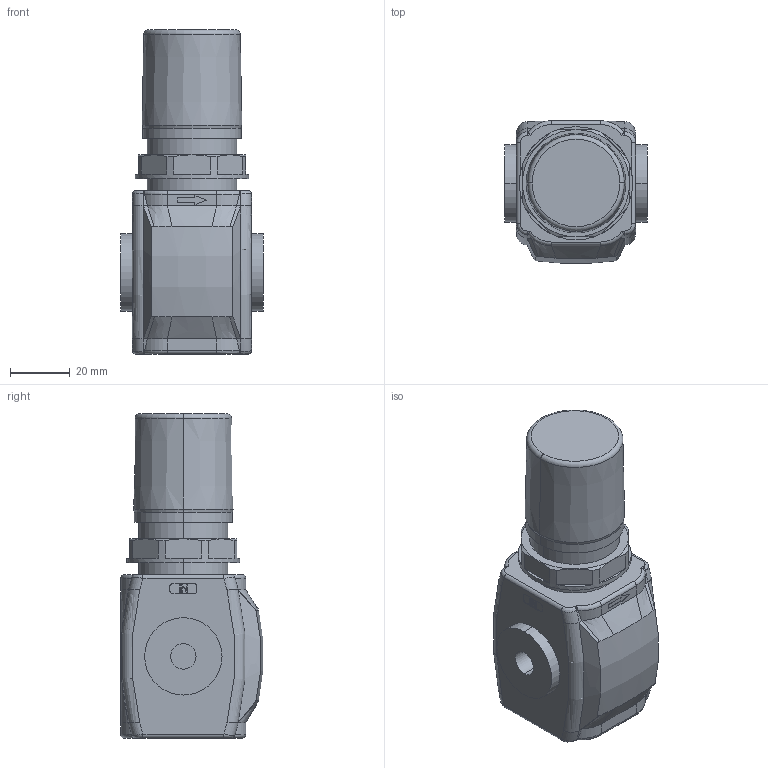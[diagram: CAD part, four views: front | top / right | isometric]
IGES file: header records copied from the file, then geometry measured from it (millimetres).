
Global section: file name: No Iges File Name specified; native system: Autodesk Inventor 2010; preprocessor: AutoDesk Inventor Iges Exporter R2010; author: valotma1; date: 20100823.141839; units: millimetre
Bounding box: 48 x 47.82 x 109 mm (x, y, z)
Volume: 143504.6 mm3; surface area: 24778.9 mm2
Topology: 2 solids, 3 shells, 325 faces, 772 edges, 488 vertices
Faces by surface type: plane 130, bspline 78, cylinder 54, revolution 31, torus 22, cone 10
